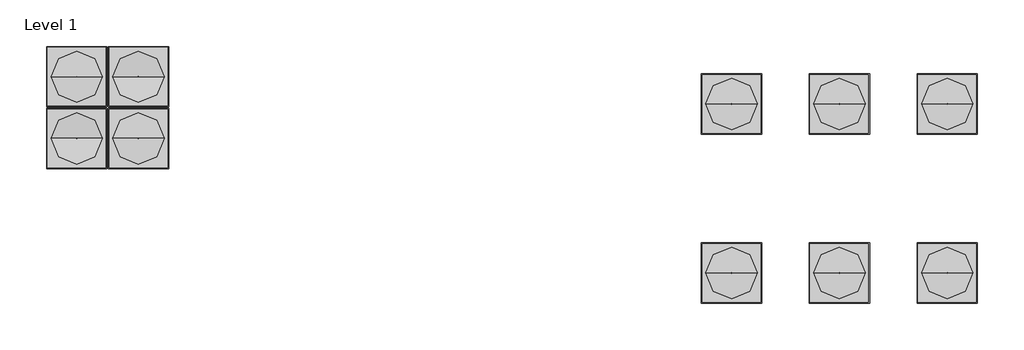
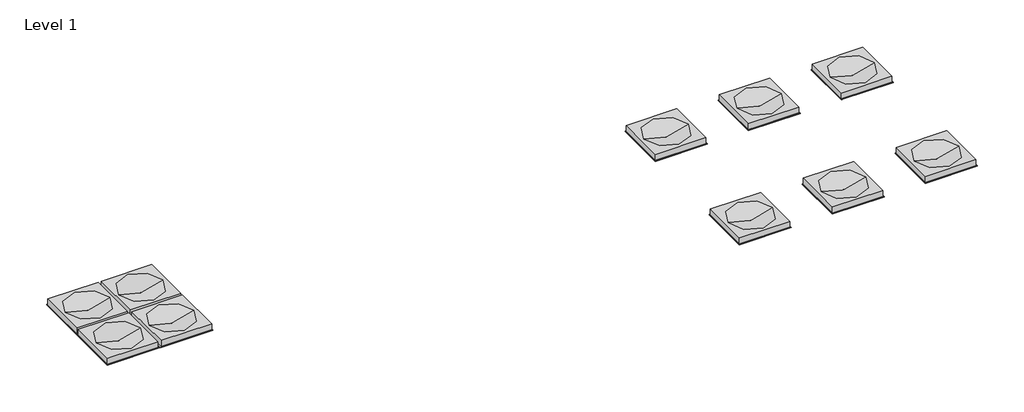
# One storey: 10 proxies.
"""IFC4 building model written with IfcOpenShell, lengths in millimetres."""

from ifc_helpers import new_model, si_unit, origin, place, context, project, spatial, transform, mapped, element, save
from components import wall_tile_e09e1949, wall_tile_f553bee5

model = new_model("IFC4")

# Units and contexts
model_context = context("Model", 3, world=origin())
ifc_project = project(units=[si_unit("LENGTHUNIT", "METRE", prefix="MILLI")], contexts=[model_context])

# Site, building, storey
site = spatial("IfcSite", under=ifc_project)
building = spatial("IfcBuilding", under=site)
storey = spatial("IfcBuildingStorey", under=building, Name="Level 1", Elevation=0.0)

# Proxies
placement = place(None, origin())
wall_tile_shape = wall_tile_e09e1949(model_context)
element("IfcBuildingElementProxy", 1, Name="Ceiling_Tile-Qwel-Deep_Dish : Wall Tile", ObjectType="Ceiling_Tile-Qwel-Deep_Dish : Wall Tile", at=placement, inside=storey, context=model_context, shape_type="MappedRepresentation", body=[
    mapped(wall_tile_shape, transform((-5922.1212374, -18611.6687425, 0.0), x_axis=(1.0, 0.0, 0.0), y_axis=(0.0, 1.0, 0.0), z_axis=(0.0, 0.0, 1.0))),
])
element("IfcBuildingElementProxy", 2, Name="Ceiling_Tile-Qwel-Deep_Dish : Wall Tile", ObjectType="Ceiling_Tile-Qwel-Deep_Dish : Wall Tile", at=placement, inside=storey, context=model_context, shape_type="MappedRepresentation", body=[
    mapped(wall_tile_shape, transform((1622.238153, -20552.7794225, 0.0), x_axis=(1.0, 0.0, 0.0), y_axis=(0.0, 1.0, 0.0), z_axis=(0.0, 0.0, 1.0))),
])
element("IfcBuildingElementProxy", 3, Name="Ceiling_Tile-Qwel-Deep_Dish : Wall Tile", ObjectType="Ceiling_Tile-Qwel-Deep_Dish : Wall Tile", at=placement, inside=storey, context=model_context, shape_type="MappedRepresentation", body=[
    mapped(wall_tile_shape, transform((-5312.5212374, -19221.2687425, 0.0), x_axis=(-1.0, 0.0, 0.0), y_axis=(0.0, -1.0, 0.0), z_axis=(0.0, 0.0, 1.0))),
])
wall_tile_2_shape = wall_tile_f553bee5(model_context)
element("IfcBuildingElementProxy", 4, Name="Ceiling_Tile-Qwel-Deep_Dish : Wall Tile", ObjectType="Ceiling_Tile-Qwel-Deep_Dish : Wall Tile", at=placement, inside=storey, context=model_context, shape_type="MappedRepresentation", body=[
    mapped(wall_tile_2_shape, transform((-5312.5212374, -18611.6687425, 0.0), x_axis=(-1.0, 0.0, 0.0), y_axis=(0.0, -1.0, 0.0), z_axis=(0.0, 0.0, 1.0))),
])
element("IfcBuildingElementProxy", 5, Name="Ceiling_Tile-Qwel-Deep_Dish : Wall Tile", ObjectType="Ceiling_Tile-Qwel-Deep_Dish : Wall Tile", at=placement, inside=storey, context=model_context, shape_type="MappedRepresentation", body=[
    mapped(wall_tile_2_shape, transform((-5922.1212374, -19221.2687425, 0.0), x_axis=(1.0, 0.0, 0.0), y_axis=(0.0, 1.0, 0.0), z_axis=(0.0, 0.0, 1.0))),
])
element("IfcBuildingElementProxy", 6, Name="Ceiling_Tile-Qwel-Deep_Dish : Wall Tile", ObjectType="Ceiling_Tile-Qwel-Deep_Dish : Wall Tile", at=placement, inside=storey, context=model_context, shape_type="MappedRepresentation", body=[
    mapped(wall_tile_shape, transform((555.438153, -18881.4770904, 0.0), x_axis=(1.0, 0.0, 0.0), y_axis=(0.0, 1.0, 0.0), z_axis=(0.0, 0.0, 1.0))),
])
element("IfcBuildingElementProxy", 7, Name="Ceiling_Tile-Qwel-Deep_Dish : Wall Tile", ObjectType="Ceiling_Tile-Qwel-Deep_Dish : Wall Tile", at=placement, inside=storey, context=model_context, shape_type="MappedRepresentation", body=[
    mapped(wall_tile_shape, transform((1622.238153, -18881.4770904, 0.0), x_axis=(1.0, 0.0, 0.0), y_axis=(0.0, 1.0, 0.0), z_axis=(0.0, 0.0, 1.0))),
])
element("IfcBuildingElementProxy", 8, Name="Ceiling_Tile-Qwel-Deep_Dish : Wall Tile", ObjectType="Ceiling_Tile-Qwel-Deep_Dish : Wall Tile", at=placement, inside=storey, context=model_context, shape_type="MappedRepresentation", body=[
    mapped(wall_tile_shape, transform((2689.038153, -18881.4770904, 0.0), x_axis=(1.0, 0.0, 0.0), y_axis=(0.0, 1.0, 0.0), z_axis=(0.0, 0.0, 1.0))),
])
element("IfcBuildingElementProxy", 9, Name="Ceiling_Tile-Qwel-Deep_Dish : Wall Tile", ObjectType="Ceiling_Tile-Qwel-Deep_Dish : Wall Tile", at=placement, inside=storey, context=model_context, shape_type="MappedRepresentation", body=[
    mapped(wall_tile_shape, transform((555.438153, -20552.7794225, 0.0), x_axis=(1.0, 0.0, 0.0), y_axis=(0.0, 1.0, 0.0), z_axis=(0.0, 0.0, 1.0))),
])
element("IfcBuildingElementProxy", 10, Name="Ceiling_Tile-Qwel-Deep_Dish : Wall Tile", ObjectType="Ceiling_Tile-Qwel-Deep_Dish : Wall Tile", at=placement, inside=storey, context=model_context, shape_type="MappedRepresentation", body=[
    mapped(wall_tile_shape, transform((2689.038153, -20552.7794225, 0.0), x_axis=(1.0, 0.0, 0.0), y_axis=(0.0, 1.0, 0.0), z_axis=(0.0, 0.0, 1.0))),
])

save(model, "model.ifc")
